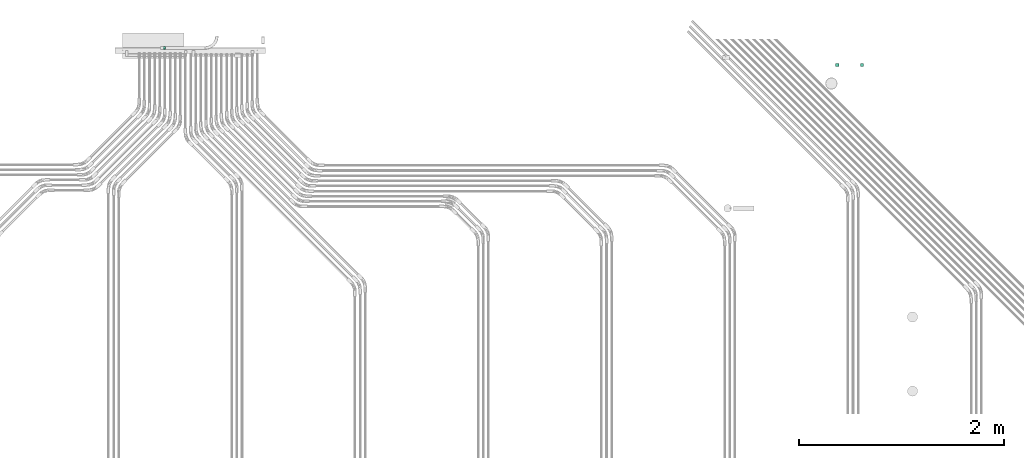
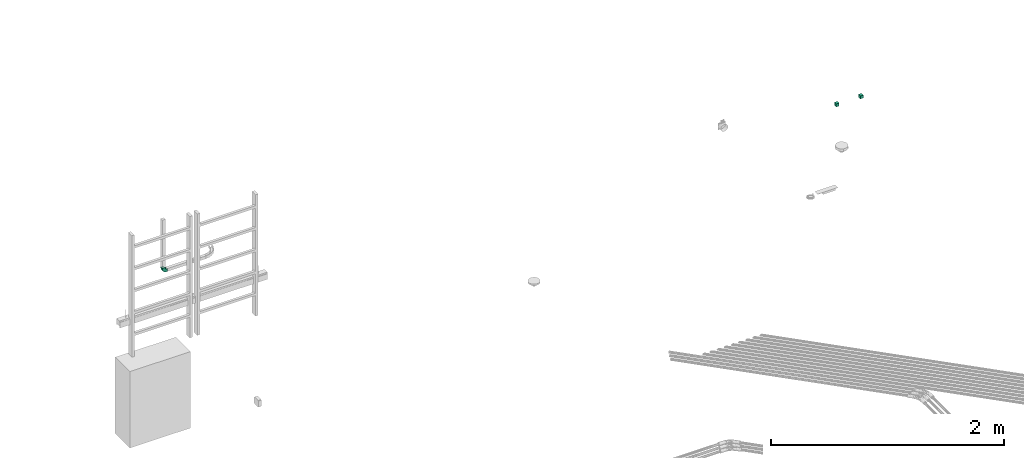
# One storey, part 28 of 51: 3 flow fittings.
"""IFC2X3 building model written with IfcOpenShell, lengths in millimetres."""

import ifcopenshell
import ifcopenshell.guid

model = None  # the IFC model being written
_history = None  # IfcOwnerHistory: only IFC2X3 demands one
_inside = {}  # id of a spatial element -> (the spatial element, [elements in it])
_under = {}  # id of a project, library or spatial element -> (it, [spatial elements below it])
_declared = {}  # id of a project -> (the project, [libraries it declares])
_typed = {}  # id of a type object -> (the type object, [elements of that type])
_made_of = {}  # id of a material, layer set ... -> (it, [elements and type objects made of it])


def new_model(schema):
    """Start an empty IFC model of exactly this schema.

    Asked for "IFC4X3", IfcOpenShell would pick the latest addendum, in which some entities
    have other attributes; the version numbers below select the first issue.
    IFC2X3 requires an IfcOwnerHistory on every rooted entity: one is made here for all.
    """
    global model, _history
    if schema == "IFC4X3":
        model = ifcopenshell.file(schema_version=(4, 3, 0, 0))
    else:
        model = ifcopenshell.file(schema=schema)
    _inside.clear()
    _under.clear()
    _declared.clear()
    _typed.clear()
    _made_of.clear()
    _history = None
    if model.schema == "IFC2X3":
        org = make("IfcOrganization", Name="unknown")
        user = make(
            "IfcPersonAndOrganization",
            ThePerson=make("IfcPerson", FamilyName="unknown"),
            TheOrganization=org,
        )
        app = make(
            "IfcApplication",
            ApplicationDeveloper=org,
            Version="unknown",
            ApplicationFullName="unknown",
            ApplicationIdentifier="unknown",
        )
        _history = make(
            "IfcOwnerHistory",
            OwningUser=user,
            OwningApplication=app,
            ChangeAction="ADDED",
            CreationDate=0,
        )
    return model


def make(cls, **values):
    """One entity of the class cls with the attributes given. An attribute that is None is left unset."""
    return model.create_entity(
        cls, **{name: value for name, value in values.items() if value is not None}
    )


def entity(cls, *values):
    """Any entity or typed value of the class cls, its attributes in the order of the schema. None: left unset."""
    e = model.create_entity(cls)
    for i, value in enumerate(values):
        if value is not None:
            e[i] = value
    return e


def rooted(cls, **values):
    """An entity with a GlobalId (a new one), such as an element, a storey or a relation."""
    return make(cls, GlobalId=ifcopenshell.guid.new(), OwnerHistory=_history, **values)


def si_unit(unit_type, name, prefix=None):
    """IfcSIUnit, for example si_unit("LENGTHUNIT", "METRE", prefix="MILLI")."""
    return make("IfcSIUnit", UnitType=unit_type, Prefix=prefix, Name=name)


def converted_unit(unit_type, name, factor, base, dimensions=None, offset=None):
    """IfcConversionBasedUnit, such as the inch: factor (a typed value) times the base unit."""
    return make(
        "IfcConversionBasedUnit"
        if offset is None
        else "IfcConversionBasedUnitWithOffset",
        ConversionOffset=offset,
        Dimensions=None
        if dimensions is None
        else entity("IfcDimensionalExponents", *dimensions),
        UnitType=unit_type,
        Name=name,
        ConversionFactor=make(
            "IfcMeasureWithUnit", ValueComponent=factor, UnitComponent=base
        ),
    )


def derived_unit(unit_type, elements):
    """IfcDerivedUnit: a product of units, each with its exponent."""
    return make(
        "IfcDerivedUnit",
        Elements=[
            make("IfcDerivedUnitElement", Unit=unit, Exponent=power)
            for unit, power in elements
        ],
        UnitType=unit_type,
    )


def assignment(units):
    """IfcUnitAssignment: the units of a project."""
    return None if units is None else make("IfcUnitAssignment", Units=units)


def point(xyz):
    """IfcCartesianPoint."""
    return None if xyz is None else make("IfcCartesianPoint", Coordinates=xyz)


def direction(xyz):
    """IfcDirection."""
    return None if xyz is None else make("IfcDirection", DirectionRatios=xyz)


def frame(location, z_axis=None, x_axis=None):
    """IfcAxis2Placement3D, a coordinate frame: its origin and axes. An axis left out is left unset."""
    return make(
        "IfcAxis2Placement3D",
        Location=point(location),
        Axis=direction(z_axis),
        RefDirection=direction(x_axis),
    )


def origin_with_axes():
    """The frame at (0, 0, 0) with the z axis (0, 0, 1) and the x axis (1, 0, 0) written out."""
    return frame((0.0, 0.0, 0.0), z_axis=(0.0, 0.0, 1.0), x_axis=(1.0, 0.0, 0.0))


def place(relative_to, where):
    """IfcLocalPlacement: puts the frame where relative to a parent placement (None: the world)."""
    return make(
        "IfcLocalPlacement", PlacementRelTo=relative_to, RelativePlacement=where
    )


def context(
    kind, dimensions, precision=None, world=None, true_north=None, identifier=None
):
    """IfcGeometricRepresentationContext, for example the 3D "Model" context."""
    return make(
        "IfcGeometricRepresentationContext",
        ContextIdentifier=identifier,
        ContextType=kind,
        CoordinateSpaceDimension=dimensions,
        Precision=precision,
        WorldCoordinateSystem=world,
        TrueNorth=true_north,
    )


def subcontext(parent, identifier, kind, view, scale=None):
    """IfcGeometricRepresentationSubContext, for example "Body" below "Model"."""
    return make(
        "IfcGeometricRepresentationSubContext",
        ContextIdentifier=identifier,
        ContextType=kind,
        ParentContext=parent,
        TargetScale=scale,
        TargetView=view,
    )


def project(units=None, contexts=None):
    """IfcProject with its units and contexts."""
    return rooted(
        "IfcProject",
        Name="project",
        RepresentationContexts=contexts,
        UnitsInContext=assignment(units),
    )


def spatial(cls, under=None, at=None, **own):
    """A site, building, storey or space (cls), placed at a placement, below another one or the project."""
    s = rooted(cls, ObjectPlacement=at, **own)
    if under is not None:
        _under.setdefault(under.id(), (under, []))[1].append(s)
    return s


def faces_of(points, faces, orient=None, outer=None):
    """IfcFace entities. A face is a list of loops; a loop is a list of indices into points, from 0.

    orient and outer hold one flag for each loop. By default every Orientation is true, the
    first loop of a face is its IfcFaceOuterBound and the others are IfcFaceBound.
    """
    made = []
    for i, loops in enumerate(faces):
        bounds = []
        for j, loop in enumerate(loops):
            is_outer = j == 0 if outer is None else outer[i][j]
            bounds.append(
                make(
                    "IfcFaceOuterBound" if is_outer else "IfcFaceBound",
                    Bound=make("IfcPolyLoop", Polygon=[points[k] for k in loop]),
                    Orientation=True if orient is None else orient[i][j],
                )
            )
        made.append(make("IfcFace", Bounds=bounds))
    return made


def open_shell(faces, orient=None, outer=None):
    """The faces of one IfcOpenShell. surface_model builds it on its shared points."""
    return ("IfcOpenShell", faces, orient, outer)


def surface_model(cls, points, shells):
    """IfcFaceBasedSurfaceModel or IfcShellBasedSurfaceModel (cls): surfaces that need not close."""
    shared = [point(p) for p in points]
    made = [make(c, CfsFaces=faces_of(shared, fs, o, b)) for c, fs, o, b in shells]
    if cls == "IfcFaceBasedSurfaceModel":
        return make(cls, FbsmFaces=made)
    return make(cls, SbsmBoundary=made)


def shape(context_of_items, identifier, shape_type, items):
    """IfcShapeRepresentation: the items that make up one representation, for example the "Body"."""
    return make(
        "IfcShapeRepresentation",
        ContextOfItems=context_of_items,
        RepresentationIdentifier=identifier,
        RepresentationType=shape_type,
        Items=items,
    )


def source(mapping_origin, context_of_items, identifier, shape_type, items):
    """IfcRepresentationMap: a shape defined once, which mapped items show again and again."""
    return make(
        "IfcRepresentationMap",
        MappingOrigin=mapping_origin,
        MappedRepresentation=shape(context_of_items, identifier, shape_type, items),
    )


def transform(
    local_origin,
    x_axis=None,
    y_axis=None,
    z_axis=None,
    scale=None,
    scale2=None,
    scale3=None,
    uniform=True,
):
    """IfcCartesianTransformationOperator3D, or its non-uniform kind. x_axis, y_axis, z_axis: its Axis1, 2, 3."""
    if uniform:
        return make(
            "IfcCartesianTransformationOperator3D",
            Axis1=direction(x_axis),
            Axis2=direction(y_axis),
            LocalOrigin=point(local_origin),
            Scale=scale,
            Axis3=direction(z_axis),
        )
    return make(
        "IfcCartesianTransformationOperator3DnonUniform",
        Axis1=direction(x_axis),
        Axis2=direction(y_axis),
        LocalOrigin=point(local_origin),
        Scale=scale,
        Axis3=direction(z_axis),
        Scale2=scale2,
        Scale3=scale3,
    )


def mapped(mapping_source, mapping_target):
    """IfcMappedItem: shows the shape of a source again, moved by a transform."""
    return make(
        "IfcMappedItem", MappingSource=mapping_source, MappingTarget=mapping_target
    )


def made_of(thing, what):
    """Note that an element or type object is made of a material, layer set ...; save() writes the relation."""
    if what is not None:
        _made_of.setdefault(what.id(), (what, []))[1].append(thing)
    return thing


def type_object(cls, material=None, **own):
    """A type object (cls), such as IfcWallType, which elements share."""
    return made_of(rooted(cls, **own), material)


def element(
    cls,
    number,
    at=None,
    inside=None,
    cuts=None,
    type_object=None,
    material=None,
    context=None,
    identifier="Body",
    shape_type=None,
    held_by="IfcProductDefinitionShape",
    body=None,
    shapes=None,
    **own,
):
    """One element of the class cls, such as IfcWall. Its Tag is "e" and its number.

    at: its placement. inside: the storey or other place that contains it. cuts: it is an
    opening in that element (IfcRelVoidsElement). A single representation is given by context,
    identifier, shape_type and body (its items); several are given by shapes. held_by: the class
    of the entity that holds the representations. save() writes the other relations.
    """
    e = rooted(cls, Tag="e%d" % number, ObjectPlacement=at, **own)
    if body is not None:
        shapes = [shape(context, identifier, shape_type, body)]
    if shapes is not None:
        e.Representation = make(held_by, Representations=shapes)
    if inside is not None:
        _inside.setdefault(inside.id(), (inside, []))[1].append(e)
    if cuts is not None:
        rooted(
            "IfcRelVoidsElement", RelatingBuildingElement=cuts, RelatedOpeningElement=e
        )
    if type_object is not None:
        _typed.setdefault(type_object.id(), (type_object, []))[1].append(e)
    return made_of(e, material)


def aggregate(whole, parts):
    """IfcRelAggregates: a whole, such as a stair, and the parts it consists of."""
    return rooted("IfcRelAggregates", RelatingObject=whole, RelatedObjects=parts)


def save(model, path):
    """Write the relations noted so far, then the file.

    IfcRelAggregates (storeys below a building ...), IfcRelContainedInSpatialStructure (elements
    in a storey), IfcRelDefinesByType, IfcRelAssociatesMaterial and IfcRelDeclares: one each for
    every whole, place, type object, material and project.
    """
    for whole, parts in _under.values():
        aggregate(whole, parts)
    for where, things in _inside.values():
        rooted(
            "IfcRelContainedInSpatialStructure",
            RelatedElements=things,
            RelatingStructure=where,
        )
    for kind, things in _typed.values():
        rooted("IfcRelDefinesByType", RelatedObjects=things, RelatingType=kind)
    for what, things in _made_of.values():
        rooted("IfcRelAssociatesMaterial", RelatedObjects=things, RelatingMaterial=what)
    for by, libraries in _declared.values():
        rooted("IfcRelDeclares", RelatingContext=by, RelatedDefinitions=libraries)
    model.write(path)


model = new_model("IFC2X3")

# Units and contexts
model_context = context("Model", 3, precision=0.01, world=frame((0.0, 4.29681676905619e-09, 0.0)), true_north=direction((4.01073788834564e-13, 1.0)))
plan_context = context("Plan", 3, precision=0.01, world=frame((0.0, 4.29681676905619e-09, 0.0)), true_north=direction((4.01073788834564e-13, 1.0)))
body_context = subcontext(model_context, "Body", "Model", "MODEL_VIEW")
ifc_project = project(units=[converted_unit("PLANEANGLEUNIT", "DEGREE", entity("IfcPositiveLengthMeasure", 0.0174532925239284), si_unit("PLANEANGLEUNIT", "RADIAN"), dimensions=[0, 0, 0, 0, 0, 0, 0]), si_unit("AREAUNIT", "SQUARE_METRE"), si_unit("LENGTHUNIT", "METRE", prefix="MILLI"), si_unit("MASSUNIT", "GRAM", prefix="KILO"), si_unit("POWERUNIT", "WATT"), si_unit("PRESSUREUNIT", "PASCAL"), si_unit("FORCEUNIT", "NEWTON", prefix="KILO"), si_unit("ELECTRICVOLTAGEUNIT", "VOLT"), si_unit("ELECTRICCURRENTUNIT", "AMPERE"), si_unit("THERMODYNAMICTEMPERATUREUNIT", "DEGREE_CELSIUS"), si_unit("TIMEUNIT", "SECOND"), si_unit("VOLUMEUNIT", "CUBIC_METRE"), derived_unit("LINEARVELOCITYUNIT", [(si_unit("LENGTHUNIT", "METRE"), 1), (si_unit("TIMEUNIT", "SECOND"), -1)]), derived_unit("VOLUMETRICFLOWRATEUNIT", [(si_unit("VOLUMEUNIT", "CUBIC_METRE"), 1), (si_unit("TIMEUNIT", "SECOND"), -1)]), derived_unit("THERMALTRANSMITTANCEUNIT", [(si_unit("POWERUNIT", "WATT"), 1), (si_unit("THERMODYNAMICTEMPERATUREUNIT", "KELVIN"), -1), (si_unit("AREAUNIT", "SQUARE_METRE"), -1)]), derived_unit("SOUNDPRESSUREUNIT", [(si_unit("PRESSUREUNIT", "PASCAL"), 1)])], contexts=[model_context, plan_context])

# Site, building, storey
site_placement = place(None, frame((0.0, -4.29681676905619e-09, 0.0), z_axis=(0.0, 0.0, 1.0), x_axis=(1.0, 0.0, 0.0)))
site = spatial("IfcSite", under=ifc_project, at=site_placement, Name="ENGM", CompositionType="ELEMENT")
building_placement = place(site_placement, frame((0.0, 4.29681676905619e-09, 0.0), z_axis=(0.0, 0.0, 1.0), x_axis=(1.0, 0.0, 0.0)))
building = spatial("IfcBuilding", under=site, at=building_placement, Name="TI", CompositionType="ELEMENT")
storey_placement = place(building_placement, frame((0.0, 0.0, 210900.0), z_axis=(0.0, 0.0, 1.0), x_axis=(1.0, 0.0, 0.0)))
storey = spatial("IfcBuildingStorey", under=building, at=storey_placement, Name="Nivå F", CompositionType="ELEMENT", Elevation=210900.0)

# Flow fittings
cable_carrier_fitting_type = type_object("IfcCableCarrierFittingType", Name="Kabelrenne, bend vertikal (Inside)", PredefinedType="BEND")
shared_shape_1 = source(origin_with_axes(), body_context, "Body", "SurfaceModel", [
    surface_model("IfcShellBasedSurfaceModel", [(-35.0, -12.46, -12.46), (-35.0, 15.0, -12.46), (-35.0, 15.0, -15.0), (-35.0, -12.46, 12.46), (-35.0, -15.0, -15.0), (-35.0, 15.0, 15.0), (-35.0, 15.0, 12.46), (-35.0, -15.0, 15.0), (-15.0, 35.0, -15.0), (-15.0, 35.0, -12.46), (12.46, 35.0, -12.46), (15.0, 35.0, -15.0), (12.46, 35.0, 12.46), (-15.0, 35.0, 12.46), (-15.0, 35.0, 15.0), (15.0, 35.0, 15.0), (-25.0, -15.0, 15.0), (-25.0, 15.0, 15.0), (-5.0, -9.64102, 15.0), (-17.92893, 17.92893, 15.0), (9.64102, 5.0, 15.0), (-15.0, 25.0, 15.0), (15.0, 25.0, 15.0), (-25.0, -15.0, -15.0), (-25.0, 15.0, -15.0), (-5.0, -9.64102, -15.0), (-17.92893, 17.92893, -15.0), (15.0, 25.0, -15.0), (-15.0, 25.0, -15.0), (9.64102, 5.0, -15.0), (-25.0, 15.0, -12.46), (-25.0, -12.46, -12.46), (-6.27, -7.44131, -12.46), (-17.92893, 17.92893, -12.46), (7.44131, 6.27, -12.46), (-15.0, 25.0, -12.46), (12.46, 25.0, -12.46), (-25.0, -12.46, 12.46), (-25.0, 15.0, 12.46), (-6.27, -7.44131, 12.46), (-17.92893, 17.92893, 12.46), (12.46, 25.0, 12.46), (-15.0, 25.0, 12.46), (7.44131, 6.27, 12.46), (-15.0, -12.32051, 15.0), (2.32051, -2.32051, -15.0), (2.32051, -2.32051, 15.0), (-15.0, -12.32051, -15.0), (11.71264, 12.7314, 15.0), (12.32051, 15.0, -15.0), (-15.635, -9.95066, 12.46), (0.58566, -0.58566, 12.46), (0.58566, -0.58566, -12.46), (-15.635, -9.95066, -12.46), (9.95066, 15.635, 12.46), (10.6667, 18.30732, -12.46)], [open_shell([[[0, 1, 2]], [[3, 0, 4]], [[2, 4, 0]], [[3, 5, 6]], [[4, 7, 3]], [[5, 3, 7]], [[8, 9, 10]], [[11, 10, 12]], [[10, 11, 8]], [[13, 14, 12]], [[12, 15, 11]], [[15, 12, 14]], [[7, 16, 5]], [[17, 5, 16]], [[18, 19, 17]], [[17, 16, 18]], [[19, 20, 21]], [[20, 19, 18]], [[21, 20, 22]], [[14, 22, 15]], [[22, 14, 21]], [[7, 4, 23]], [[23, 16, 7]], [[2, 23, 4]], [[23, 2, 24]], [[25, 23, 24]], [[24, 26, 25]], [[8, 11, 27]], [[8, 27, 28]], [[29, 25, 26]], [[29, 28, 27]], [[29, 26, 28]], [[2, 1, 24]], [[30, 24, 1]], [[0, 31, 1]], [[30, 1, 31]], [[32, 33, 30]], [[30, 31, 32]], [[33, 34, 35]], [[34, 33, 32]], [[35, 34, 36]], [[9, 36, 10]], [[36, 9, 35]], [[0, 3, 37]], [[37, 31, 0]], [[6, 37, 3]], [[37, 6, 38]], [[39, 37, 38]], [[38, 40, 39]], [[13, 12, 41]], [[13, 41, 42]], [[43, 39, 40]], [[43, 42, 41]], [[43, 40, 42]], [[6, 5, 38]], [[17, 38, 5]], [[23, 44, 16]], [[18, 45, 46]], [[29, 20, 46]], [[47, 25, 18]], [[46, 45, 29]], [[22, 48, 49]], [[47, 44, 23]], [[47, 18, 44]], [[22, 49, 27]], [[20, 29, 48]], [[25, 45, 18]], [[48, 29, 49]], [[30, 26, 24]], [[33, 26, 30]], [[35, 28, 33]], [[26, 33, 28]], [[37, 50, 31]], [[32, 39, 51]], [[51, 43, 52]], [[39, 32, 53]], [[34, 52, 43]], [[43, 54, 34]], [[31, 50, 53]], [[50, 39, 53]], [[54, 41, 55]], [[41, 36, 55]], [[52, 32, 51]], [[55, 34, 54]], [[19, 38, 17]], [[40, 38, 19]], [[21, 42, 40]], [[19, 21, 40]], [[22, 27, 11]], [[11, 15, 22]], [[28, 35, 9]], [[9, 8, 28]], [[36, 41, 12]], [[12, 10, 36]], [[42, 21, 14]], [[14, 13, 42]]])]),
])
flow_fitting_1_placement = place(storey_placement, frame((600847.44756, 699389.82156, 2762.27922), z_axis=(0.0, -1.0, 0.0), x_axis=(0.0, 0.0, -1.0)))
element("IfcFlowFitting", 1, at=flow_fitting_1_placement, inside=storey, type_object=cable_carrier_fitting_type, Name="Kabelrenne, bend vertikal (Inside)", context=body_context, shape_type="MappedRepresentation", body=[
    mapped(shared_shape_1, transform((0.0, 0.0, 0.0), scale=1.0)),
])
junction_box_type_1 = type_object("IfcJunctionBoxType", Name="XD - Binærinngang", PredefinedType="NOTDEFINED")
shared_shape_2 = source(origin_with_axes(), body_context, "Body", "SurfaceModel", [
    surface_model("IfcShellBasedSurfaceModel", [(15.24, 30.48, -15.24), (-15.24, 30.48, -15.24), (-15.24, 30.48, 15.24), (15.24, 30.48, 15.24), (15.24, 0.0, 15.24), (-15.24, 0.0, 15.24), (-15.24, 0.0, -15.24), (15.24, 0.0, -15.24)], [open_shell([[[0, 1, 2]], [[2, 3, 0]], [[4, 5, 6]], [[6, 7, 4]], [[6, 5, 2]], [[2, 1, 6]], [[7, 6, 1]], [[1, 0, 7]], [[4, 7, 0]], [[0, 3, 4]], [[5, 4, 3]], [[3, 2, 5]]])]),
])
flow_fitting_2_placement = place(storey_placement, frame((607420.65835, 699240.43084, 2300.0), z_axis=(0.0, 0.0, 1.0), x_axis=(-1.0, 0.0, 0.0)))
element("IfcFlowFitting", 2, at=flow_fitting_2_placement, inside=storey, type_object=junction_box_type_1, Name="XD - Binærinngang", context=body_context, shape_type="MappedRepresentation", body=[
    mapped(shared_shape_2, transform((0.0, 0.0, 0.0), scale=1.0)),
])
junction_box_type_2 = type_object("IfcJunctionBoxType", Name="XD - KNX-DALI GATEWAY", PredefinedType="NOTDEFINED")
flow_fitting_3_placement = place(storey_placement, frame((607660.65835, 699240.43084, 2300.0), z_axis=(0.0, 0.0, 1.0), x_axis=(-1.0, 0.0, 0.0)))
element("IfcFlowFitting", 3, at=flow_fitting_3_placement, inside=storey, type_object=junction_box_type_2, Name="XD - KNX-DALI GATEWAY", context=body_context, shape_type="MappedRepresentation", body=[
    mapped(shared_shape_2, transform((0.0, 0.0, 0.0), scale=1.0)),
])

save(model, "model.ifc")
